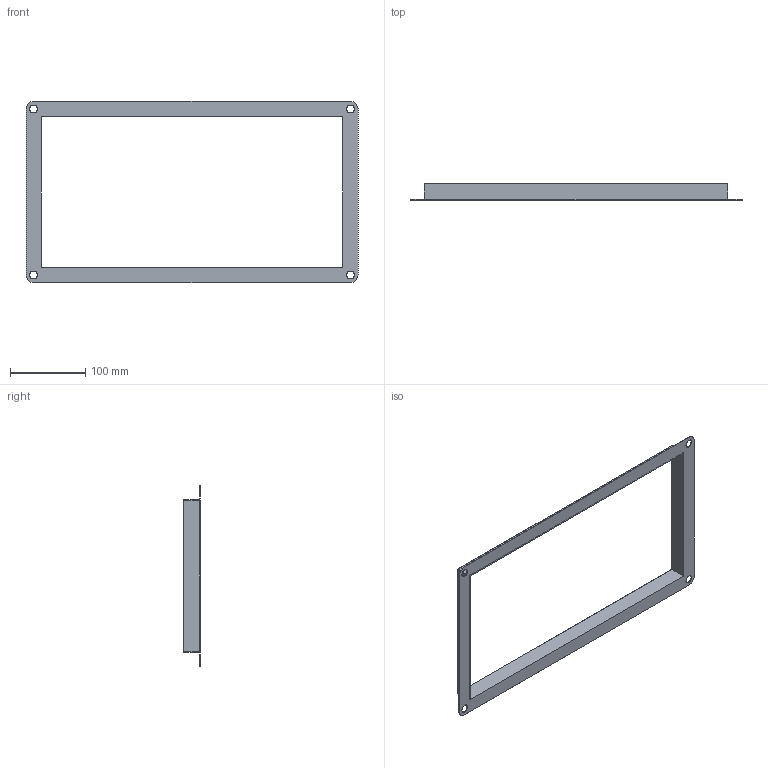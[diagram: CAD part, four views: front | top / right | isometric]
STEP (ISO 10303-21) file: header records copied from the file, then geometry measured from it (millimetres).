
FILE_DESCRIPTION(/* description */ (''),/* implementation_level */ '2;1');
FILE_NAME(/* name */ 'Z:\Output\GF_40-20-06919-000.stp',/* time_stamp */ '2017-11-09T16:55:19+01:00',/* author */ ('Engineering1'),/* organization */ (''),/* preprocessor_version */ 'ST-DEVELOPER v16.5',/* originating_system */ 'Autodesk Inventor 2017',/* authorisation */ '');
FILE_SCHEMA (('AUTOMOTIVE_DESIGN { 1 0 10303 214 3 1 1 }'));
Length unit declared in the file: millimetre
Products named in the file (1): GF-1
Bounding box: 440 x 22 x 240 mm (x, y, z)
Volume: 50451.8 mm3; surface area: 103578.4 mm2
Topology: 1 solids, 1 shells, 23 faces, 64 edges, 44 vertices
Faces by surface type: plane 15, cylinder 8
Full cylindrical faces by diameter (mm): 10.5 x4
Entity records: 740 total; most frequent: DIRECTION 120, CARTESIAN_POINT 120, ORIENTED_EDGE 112, EDGE_CURVE 56, LINE 40, VECTOR 40, VERTEX_POINT 40, AXIS2_PLACEMENT_3D 40
